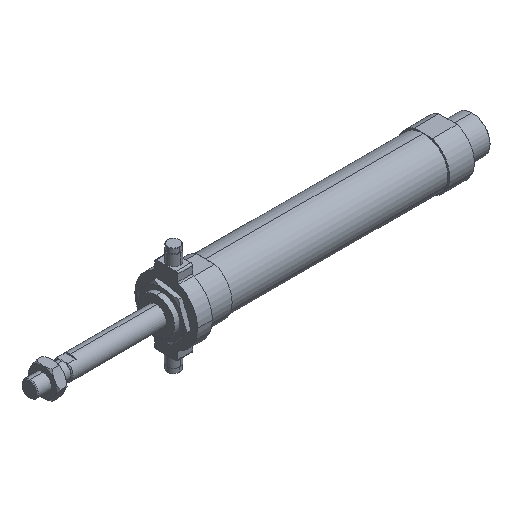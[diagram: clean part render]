
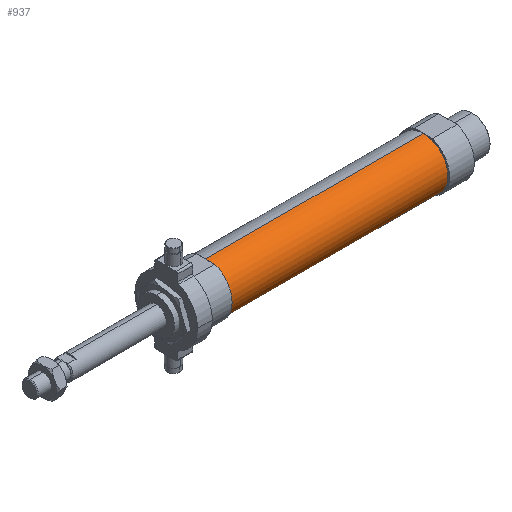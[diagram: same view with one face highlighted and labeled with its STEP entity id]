
A CAD part, isometric view. The second image highlights one B-rep face of the part: STEP entity #937.
In plain terms, the highlighted cylindrical face has radius 15 mm (diameter 30 mm), a partial arc.
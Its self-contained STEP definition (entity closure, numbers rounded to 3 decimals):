
#14 = CARTESIAN_POINT ( 'NONE',  ( 239., 0., 0. ) ) ;
#166 = LINE ( 'NONE', #2031, #3452 ) ;
#236 = CARTESIAN_POINT ( 'NONE',  ( -6.469, 0., 0. ) ) ;
#269 = VERTEX_POINT ( 'NONE', #1634 ) ;
#336 = EDGE_CURVE ( 'NONE', #2082, #269, #1159, .T. ) ;
#439 = EDGE_LOOP ( 'NONE', ( #2018, #780, #2004, #3208 ) ) ;
#544 = DIRECTION ( 'NONE',  ( -1., 0., 0. ) ) ;
#573 = AXIS2_PLACEMENT_3D ( 'NONE', #3323, #2735, #2309 ) ;
#582 = DIRECTION ( 'NONE',  ( -1., 0., 0. ) ) ;
#630 = VECTOR ( 'NONE', #544, 1000. ) ;
#745 = CIRCLE ( 'NONE', #1884, 15. ) ;
#780 = ORIENTED_EDGE ( 'NONE', *, *, #3420, .T. ) ;
#877 = EDGE_CURVE ( 'NONE', #269, #1006, #2115, .T. ) ;
#937 = ADVANCED_FACE ( 'NONE', ( #3025 ), #4258, .T. ) ;
#1006 = VERTEX_POINT ( 'NONE', #2675 ) ;
#1159 = LINE ( 'NONE', #3063, #630 ) ;
#1371 = VERTEX_POINT ( 'NONE', #3171 ) ;
#1634 = CARTESIAN_POINT ( 'NONE',  ( 107., 0., -15. ) ) ;
#1715 = CARTESIAN_POINT ( 'NONE',  ( 239., 0., -15. ) ) ;
#1884 = AXIS2_PLACEMENT_3D ( 'NONE', #14, #2869, #2435 ) ;
#2004 = ORIENTED_EDGE ( 'NONE', *, *, #3111, .T. ) ;
#2018 = ORIENTED_EDGE ( 'NONE', *, *, #336, .F. ) ;
#2031 = CARTESIAN_POINT ( 'NONE',  ( -6.469, 0., 15. ) ) ;
#2082 = VERTEX_POINT ( 'NONE', #1715 ) ;
#2115 = CIRCLE ( 'NONE', #573, 15. ) ;
#2309 = DIRECTION ( 'NONE',  ( 0., 0., 1. ) ) ;
#2328 = AXIS2_PLACEMENT_3D ( 'NONE', #236, #2740, #3325 ) ;
#2435 = DIRECTION ( 'NONE',  ( 0., 0., 1. ) ) ;
#2675 = CARTESIAN_POINT ( 'NONE',  ( 107., 0., 15. ) ) ;
#2735 = DIRECTION ( 'NONE',  ( -1., 0., 0. ) ) ;
#2740 = DIRECTION ( 'NONE',  ( -1., 0., 0. ) ) ;
#2869 = DIRECTION ( 'NONE',  ( -1., 0., 0. ) ) ;
#3025 = FACE_OUTER_BOUND ( 'NONE', #439, .T. ) ;
#3063 = CARTESIAN_POINT ( 'NONE',  ( -6.469, 0., -15. ) ) ;
#3111 = EDGE_CURVE ( 'NONE', #1371, #1006, #166, .T. ) ;
#3171 = CARTESIAN_POINT ( 'NONE',  ( 239., 0., 15. ) ) ;
#3208 = ORIENTED_EDGE ( 'NONE', *, *, #877, .F. ) ;
#3323 = CARTESIAN_POINT ( 'NONE',  ( 107., 0., 0. ) ) ;
#3325 = DIRECTION ( 'NONE',  ( 0., 0., 1. ) ) ;
#3420 = EDGE_CURVE ( 'NONE', #2082, #1371, #745, .T. ) ;
#3452 = VECTOR ( 'NONE', #582, 1000. ) ;
#4258 = CYLINDRICAL_SURFACE ( 'NONE', #2328, 15. ) ;
